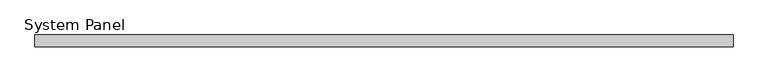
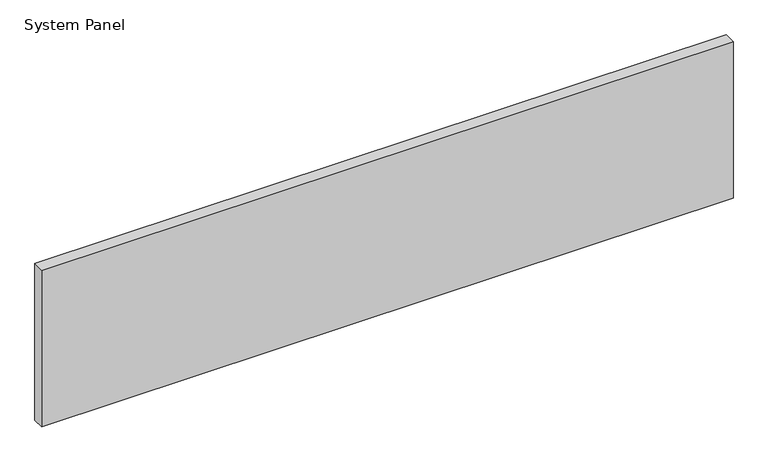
"""IFC4 building model written with IfcOpenShell, lengths in millimetres: plate geometry, System Panel : Glazed - ACMP (AL-1)."""

from ifc_helpers import new_model, si_unit, origin, origin_with_axes, place, context, project, spatial, polyline, outline, extrude, source, transform, mapped, element, save


def system_panel_9b89fc64(model_context):
    return source(origin(), model_context, "Body", "SweptSolid", [
        extrude(outline(polyline([(755.65, -25.4), (-755.65, -25.4), (-755.65, 0.0), (755.65, 0.0), (755.65, -25.4)])), origin_with_axes(), (0.0, 0.0, 1.0), 361.95),
    ])


if __name__ == "__main__":
    model = new_model("IFC4")
    model_context = context("Model", 3, world=origin())
    ifc_project = project(units=[si_unit("LENGTHUNIT", "METRE", prefix="MILLI")], contexts=[model_context])
    site = spatial("IfcSite", under=ifc_project)
    building = spatial("IfcBuilding", under=site)
    placement = place(None, origin())
    system_panel_shape = system_panel_9b89fc64(model_context)
    element("IfcPlate", 1, ObjectType="System Panel : Glazed - ACMP (AL-1)", at=placement, inside=building, context=model_context, shape_type="MappedRepresentation", body=[
        mapped(system_panel_shape, transform((0.0, 0.0, 0.0), x_axis=(1.0, 0.0, 0.0), y_axis=(0.0, 1.0, 0.0), z_axis=(0.0, 0.0, 1.0))),
    ])
    save(model, "model.ifc")
